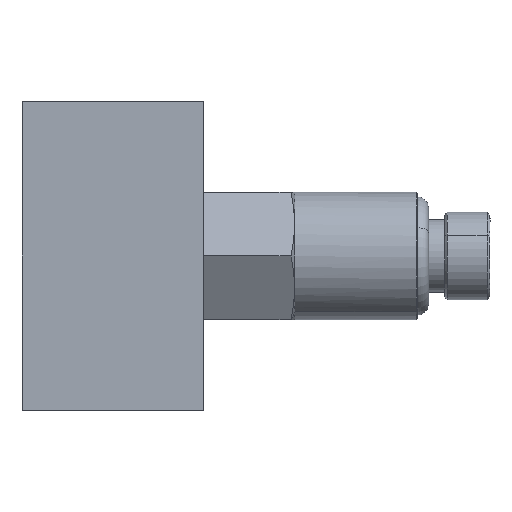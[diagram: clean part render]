
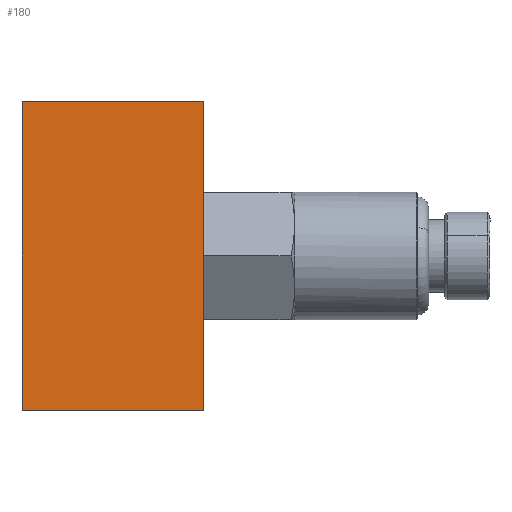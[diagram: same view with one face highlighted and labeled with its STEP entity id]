
A CAD part, left-side view. The second image highlights one B-rep face of the part: STEP entity #180.
In plain terms, the highlighted planar face has unit normal (-1, 0, 0).
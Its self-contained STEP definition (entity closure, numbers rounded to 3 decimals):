
#61=CARTESIAN_POINT('Vertex',(-7.5,51.5,-17.)) ;
#66=CARTESIAN_POINT('Line Origine',(-7.5,51.5,0.)) ;
#70=CARTESIAN_POINT('Vertex',(-7.5,51.5,17.)) ;
#101=CARTESIAN_POINT('Vertex',(-7.5,31.5,-17.)) ;
#106=CARTESIAN_POINT('Line Origine',(-7.5,41.5,-17.)) ;
#141=CARTESIAN_POINT('Axis2P3D Location',(-7.5,0.,0.)) ;
#146=CARTESIAN_POINT('Line Origine',(-7.5,41.5,17.)) ;
#150=CARTESIAN_POINT('Vertex',(-7.5,31.5,17.)) ;
#153=CARTESIAN_POINT('Line Origine',(-7.5,31.5,-9.005)) ;
#157=CARTESIAN_POINT('Vertex',(-7.5,31.5,-1.01)) ;
#160=CARTESIAN_POINT('Line Origine',(-7.5,31.5,0.)) ;
#164=CARTESIAN_POINT('Vertex',(-7.5,31.5,1.01)) ;
#167=CARTESIAN_POINT('Line Origine',(-7.5,31.5,9.005)) ;
#67=DIRECTION('Vector Direction',(0.,0.,1.)) ;
#107=DIRECTION('Vector Direction',(0.,-1.,0.)) ;
#142=DIRECTION('Axis2P3D Direction',(1.,0.,0.)) ;
#143=DIRECTION('Axis2P3D XDirection',(0.,1.,0.)) ;
#147=DIRECTION('Vector Direction',(0.,1.,0.)) ;
#154=DIRECTION('Vector Direction',(0.,0.,-1.)) ;
#161=DIRECTION('Vector Direction',(0.,0.,-1.)) ;
#168=DIRECTION('Vector Direction',(0.,0.,-1.)) ;
#144=AXIS2_PLACEMENT_3D('Plane Axis2P3D',#141,#142,#143) ;
#173=ORIENTED_EDGE('',*,*,#152,.F.) ;
#174=ORIENTED_EDGE('',*,*,#72,.F.) ;
#175=ORIENTED_EDGE('',*,*,#110,.F.) ;
#176=ORIENTED_EDGE('',*,*,#159,.F.) ;
#177=ORIENTED_EDGE('',*,*,#166,.F.) ;
#178=ORIENTED_EDGE('',*,*,#171,.F.) ;
#68=VECTOR('Line Direction',#67,1.) ;
#108=VECTOR('Line Direction',#107,1.) ;
#148=VECTOR('Line Direction',#147,1.) ;
#155=VECTOR('Line Direction',#154,1.) ;
#162=VECTOR('Line Direction',#161,1.) ;
#169=VECTOR('Line Direction',#168,1.) ;
#180=ADVANCED_FACE('',(#179),#145,.F.) ;
#72=EDGE_CURVE('',#62,#71,#69,.T.) ;
#110=EDGE_CURVE('',#102,#62,#109,.F.) ;
#152=EDGE_CURVE('',#71,#151,#149,.F.) ;
#159=EDGE_CURVE('',#158,#102,#156,.T.) ;
#166=EDGE_CURVE('',#165,#158,#163,.T.) ;
#171=EDGE_CURVE('',#151,#165,#170,.T.) ;
#172=EDGE_LOOP('',(#173,#174,#175,#176,#177,#178)) ;
#179=FACE_OUTER_BOUND('',#172,.T.) ;
#69=LINE('Line',#66,#68) ;
#109=LINE('Line',#106,#108) ;
#149=LINE('Line',#146,#148) ;
#156=LINE('Line',#153,#155) ;
#163=LINE('Line',#160,#162) ;
#170=LINE('Line',#167,#169) ;
#145=PLANE('Plane',#144) ;
#62=VERTEX_POINT('',#61) ;
#71=VERTEX_POINT('',#70) ;
#102=VERTEX_POINT('',#101) ;
#151=VERTEX_POINT('',#150) ;
#158=VERTEX_POINT('',#157) ;
#165=VERTEX_POINT('',#164) ;
